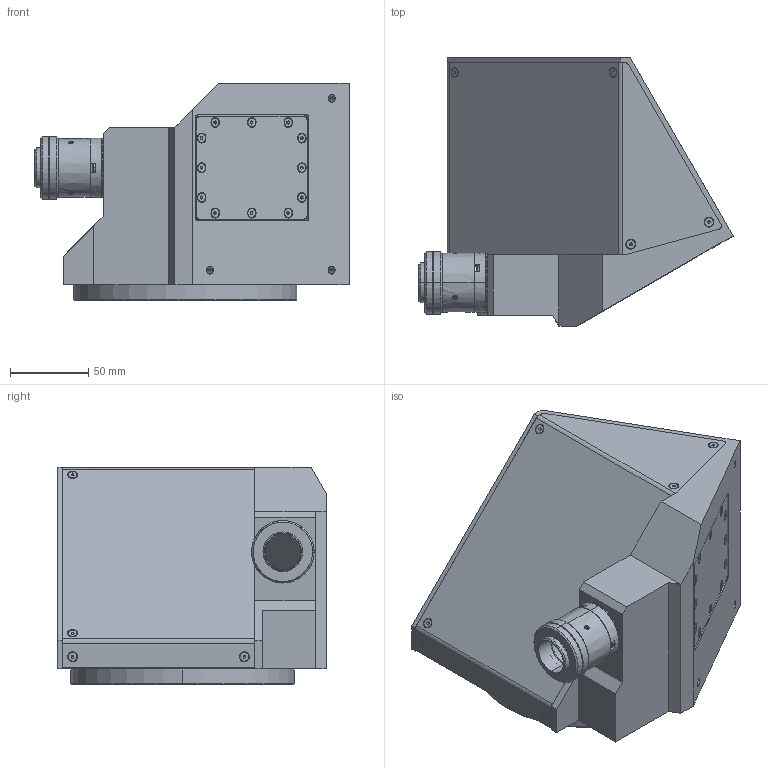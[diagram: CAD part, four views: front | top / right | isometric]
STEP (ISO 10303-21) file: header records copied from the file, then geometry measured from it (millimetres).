
FILE_DESCRIPTION(('LS-TCL-0369'),'2;1');
FILE_NAME('LS-TCL-0369.stp','2026-10-15T21:56:13',('LumaSpec Vision'),('LumaSpec Vision'),'LumaSpec Vision','LumaSpec Vision','');
FILE_SCHEMA(('AUTOMOTIVE_DESIGN { 1 0 10303 214 1 1 1 1 }'));
Length unit declared in the file: millimetre
Products named in the file (521): LumaSpec Vision
Assembly tree (520 placements, depth 2):
  LumaSpec Vision
    LumaSpec Vision
    LumaSpec Vision
    LumaSpec Vision
    LumaSpec Vision
    LumaSpec Vision
    LumaSpec Vision
    LumaSpec Vision
    LumaSpec Vision
    LumaSpec Vision
    LumaSpec Vision
    LumaSpec Vision
    LumaSpec Vision
    LumaSpec Vision
    LumaSpec Vision
    LumaSpec Vision
    LumaSpec Vision
    LumaSpec Vision
    LumaSpec Vision
    LumaSpec Vision
    LumaSpec Vision
    LumaSpec Vision
    LumaSpec Vision
    LumaSpec Vision
    LumaSpec Vision
    LumaSpec Vision
    LumaSpec Vision
    LumaSpec Vision
    LumaSpec Vision
    LumaSpec Vision
    LumaSpec Vision
    LumaSpec Vision
    LumaSpec Vision
    LumaSpec Vision
    LumaSpec Vision
    LumaSpec Vision
    LumaSpec Vision
    LumaSpec Vision
    LumaSpec Vision
    LumaSpec Vision
    LumaSpec Vision
    LumaSpec Vision
    LumaSpec Vision
    LumaSpec Vision
    LumaSpec Vision
    LumaSpec Vision
    LumaSpec Vision
    LumaSpec Vision
    LumaSpec Vision
    LumaSpec Vision
    LumaSpec Vision
    LumaSpec Vision
    LumaSpec Vision
    LumaSpec Vision
    LumaSpec Vision
    LumaSpec Vision
    LumaSpec Vision
    LumaSpec Vision
    LumaSpec Vision
    LumaSpec Vision
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Bounding box: 201.02 x 171.92 x 139 mm (x, y, z)
Surface area: 145770.3 mm2 (no closed solid volume)
Topology: 0 solids, 520 shells, 520 faces, 7150 edges, 7085 vertices
Faces by surface type: revolution 276, bspline 244
Entity records: 120716 total; most frequent: CARTESIAN_POINT 46187, B_SPLINE_CURVE_WITH_KNOTS 12237, ORIENTED_EDGE 7085, EDGE_CURVE 7085, VERTEX_POINT 7085, SURFACE_CURVE 7085, PCURVE 7085, DEFINITIONAL_REPRESENTATION 7085
